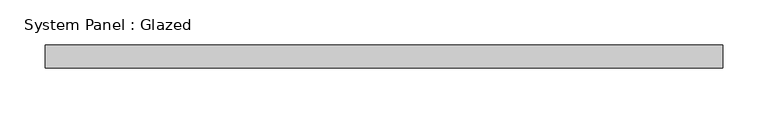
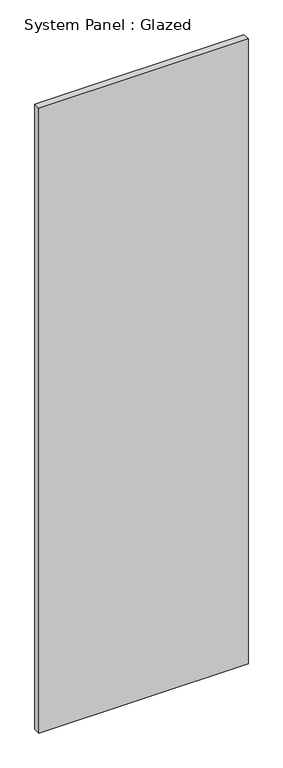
"""IFC4 building model written with IfcOpenShell, lengths in millimetres: plate geometry, System Panel : Glazed."""

from ifc_helpers import new_model, si_unit, origin, origin_with_axes, place, context, project, spatial, polyline, outline, extrude, source, transform, mapped, element, save


def system_panel_glazed_6d390525(model_context):
    return source(origin(), model_context, "Body", "SweptSolid", [
        extrude(outline(polyline([(375.7570972, 19.05), (-375.7570972, 19.05), (-375.7570972, 44.45), (375.7570972, 44.45), (375.7570972, 19.05)])), origin_with_axes(), (0.0, 0.0, 1.0), 2374.9),
    ])


if __name__ == "__main__":
    model = new_model("IFC4")
    model_context = context("Model", 3, world=origin())
    ifc_project = project(units=[si_unit("LENGTHUNIT", "METRE", prefix="MILLI")], contexts=[model_context])
    site = spatial("IfcSite", under=ifc_project)
    building = spatial("IfcBuilding", under=site)
    placement = place(None, origin())
    system_panel_glazed_shape = system_panel_glazed_6d390525(model_context)
    element("IfcPlate", 1, ObjectType="System Panel : Glazed", at=placement, inside=building, context=model_context, shape_type="MappedRepresentation", body=[
        mapped(system_panel_glazed_shape, transform((0.0, 0.0, 0.0), x_axis=(1.0, 0.0, 0.0), y_axis=(0.0, 1.0, 0.0), z_axis=(0.0, 0.0, 1.0))),
    ])
    save(model, "model.ifc")
